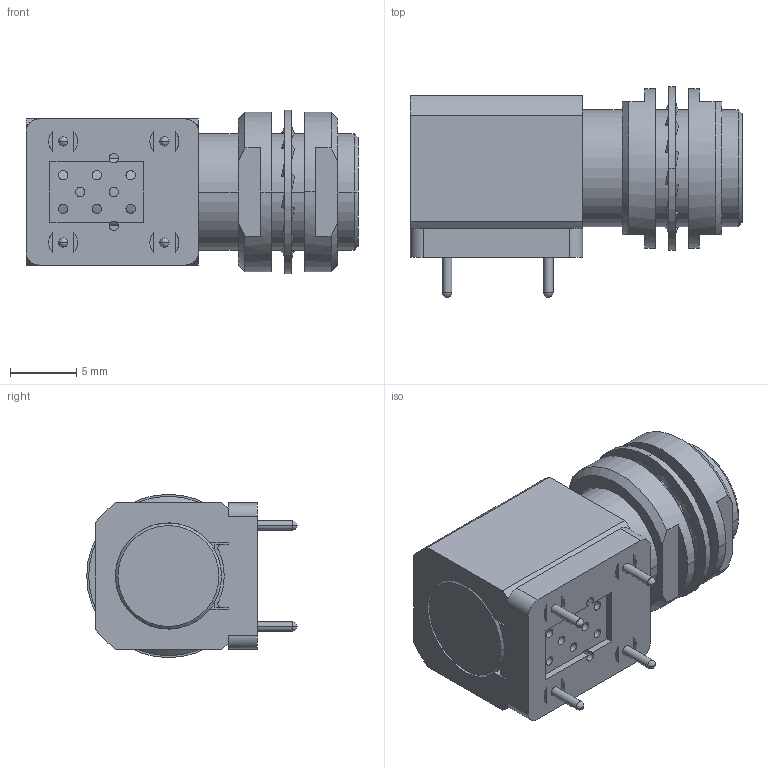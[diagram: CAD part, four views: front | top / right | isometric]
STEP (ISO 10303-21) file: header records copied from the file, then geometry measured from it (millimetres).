
FILE_DESCRIPTION (( 'STEP AP203' ), '1' );
FILE_NAME ('820BRYY-213R0M1.STEP', '2026-01-30T17:47:04', ( '' ), ( '' ), 'SwSTEP 2.0', 'SolidWorks 2020', '' );
FILE_SCHEMA (( 'CONFIG_CONTROL_DESIGN' ));
Length unit declared in the file: millimetre
Products named in the file (1): 820BRYY-213R0M1
Bounding box: 25 x 15.85 x 12.3 mm (x, y, z)
Volume: 2575.5 mm3; surface area: 2679.1 mm2
Topology: 3 solids, 3 shells, 362 faces, 1017 edges, 622 vertices
Faces by surface type: plane 149, cylinder 114, cone 65, bspline 34
Entity records: 13323 total; most frequent: CARTESIAN_POINT 4145, ORIENTED_EDGE 2000, DIRECTION 1824, EDGE_CURVE 1000, AXIS2_PLACEMENT_3D 709, VERTEX_POINT 622, EDGE_LOOP 410, LINE 406
